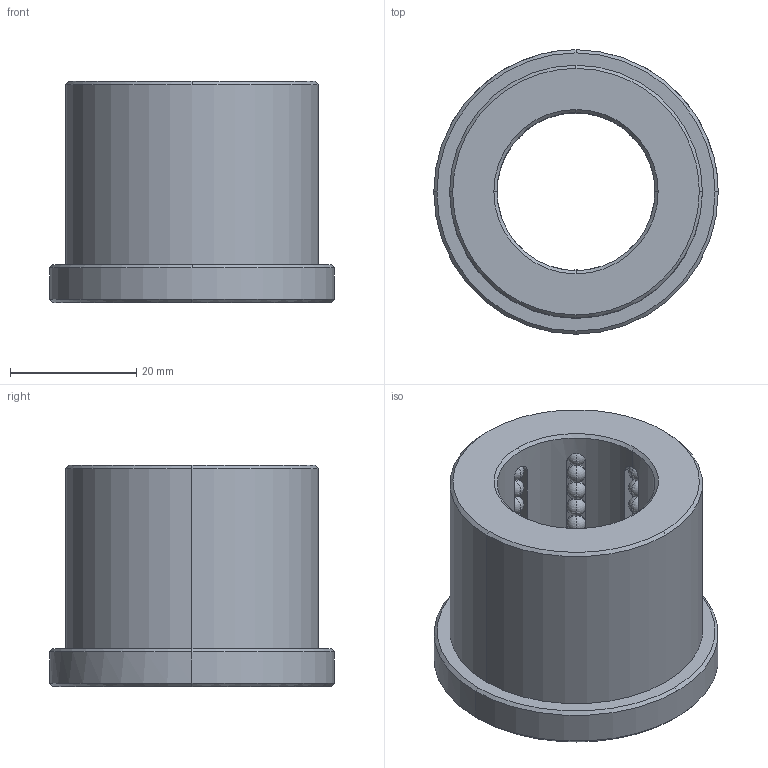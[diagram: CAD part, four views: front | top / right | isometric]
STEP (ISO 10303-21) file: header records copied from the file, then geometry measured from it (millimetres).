
FILE_DESCRIPTION(('CATIA V5 STEP Exchange'),'2;1');
FILE_NAME('C:\Users\Raffaele\Desktop\3D BOLEX\3D FILES CF BOLEX\1-BUSH REF 801\B8012535.stp','2019-06-19T13:47:58+00:00',('none'),('none'),'CATIA Version 5 Release 20 GA (IN-10)','CATIA V5 STEP AP203','none');
FILE_SCHEMA(('CONFIG_CONTROL_DESIGN'));
Length unit declared in the file: millimetre
Products named in the file (1): B8012535
Bounding box: 45 x 45 x 35 mm (x, y, z)
Volume: 27792.2 mm3; surface area: 12750.1 mm2
Topology: 73 solids, 73 shells, 357 faces, 1034 edges, 254 vertices
Faces by surface type: sphere 288, plane 27, cylinder 22, cone 20
Entity records: 7163 total; most frequent: CARTESIAN_POINT 1529, DIRECTION 1133, ORIENTED_EDGE 916, AXIS2_PLACEMENT_3D 685, EDGE_CURVE 458, EDGE_LOOP 366, ADVANCED_FACE 357, FACE_OUTER_BOUND 357
